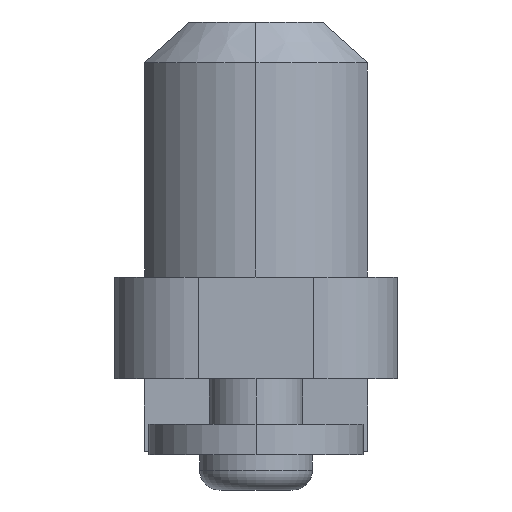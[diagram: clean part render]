
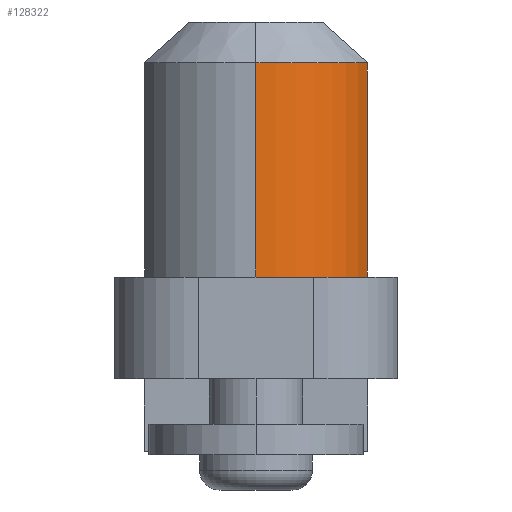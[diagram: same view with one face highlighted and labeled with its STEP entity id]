
A CAD part, left-side view. The second image highlights one B-rep face of the part: STEP entity #128322.
In plain terms, the highlighted cylindrical face has radius 7.02 mm (diameter 14.04 mm), a partial arc.
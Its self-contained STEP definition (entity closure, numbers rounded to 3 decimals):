
#1366 = AXIS2_PLACEMENT_3D ( 'NONE', #101583, #46306, #79176 ) ;
#4897 = DIRECTION ( 'NONE',  ( 1., 0., 0. ) ) ;
#8218 = CARTESIAN_POINT ( 'NONE',  ( -22.88, -6.57, -1. ) ) ;
#8811 = CARTESIAN_POINT ( 'NONE',  ( -22.88, -6.57, -12.69 ) ) ;
#17164 = CARTESIAN_POINT ( 'NONE',  ( -20.42, 0.005, -12.69 ) ) ;
#17468 = VECTOR ( 'NONE', #134740, 1000. ) ;
#19517 = VERTEX_POINT ( 'NONE', #132880 ) ;
#21119 = DIRECTION ( 'NONE',  ( 0., 0., -1. ) ) ;
#21633 = EDGE_CURVE ( 'NONE', #107968, #89227, #124994, .T. ) ;
#28563 = DIRECTION ( 'NONE',  ( 0., 0., -1. ) ) ;
#29779 = ORIENTED_EDGE ( 'NONE', *, *, #49169, .T. ) ;
#38866 = CARTESIAN_POINT ( 'NONE',  ( -22.88, -6.57, 0. ) ) ;
#45014 = LINE ( 'NONE', #75148, #52687 ) ;
#46306 = DIRECTION ( 'NONE',  ( 0., 0., -1. ) ) ;
#49169 = EDGE_CURVE ( 'NONE', #104097, #19517, #56592, .T. ) ;
#51559 = VERTEX_POINT ( 'NONE', #87367 ) ;
#52687 = VECTOR ( 'NONE', #65337, 1000. ) ;
#56592 = CIRCLE ( 'NONE', #136974, 7.02 ) ;
#56682 = EDGE_LOOP ( 'NONE', ( #29779, #109836, #69659, #65313, #123055 ) ) ;
#65313 = ORIENTED_EDGE ( 'NONE', *, *, #21633, .T. ) ;
#65337 = DIRECTION ( 'NONE',  ( 0., 0., 1. ) ) ;
#66562 = DIRECTION ( 'NONE',  ( 0., 0., -1. ) ) ;
#69659 = ORIENTED_EDGE ( 'NONE', *, *, #101364, .F. ) ;
#70702 = AXIS2_PLACEMENT_3D ( 'NONE', #17164, #21119, #138017 ) ;
#75148 = CARTESIAN_POINT ( 'NONE',  ( -22.88, -6.57, -12.69 ) ) ;
#79176 = DIRECTION ( 'NONE',  ( -1., 0., 0. ) ) ;
#81535 = CIRCLE ( 'NONE', #70702, 7.02 ) ;
#81740 = LINE ( 'NONE', #104855, #136160 ) ;
#87367 = CARTESIAN_POINT ( 'NONE',  ( -27.44, 0.005, -12.69 ) ) ;
#89227 = VERTEX_POINT ( 'NONE', #8218 ) ;
#89360 = EDGE_CURVE ( 'NONE', #19517, #51559, #81740, .T. ) ;
#101364 = EDGE_CURVE ( 'NONE', #107968, #51559, #81535, .T. ) ;
#101583 = CARTESIAN_POINT ( 'NONE',  ( -20.42, 0.005, 2.4 ) ) ;
#102612 = CARTESIAN_POINT ( 'NONE',  ( -22.88, -6.57, -12.69 ) ) ;
#104097 = VERTEX_POINT ( 'NONE', #38866 ) ;
#104855 = CARTESIAN_POINT ( 'NONE',  ( -27.44, 0.005, 2.4 ) ) ;
#107968 = VERTEX_POINT ( 'NONE', #8811 ) ;
#109836 = ORIENTED_EDGE ( 'NONE', *, *, #89360, .T. ) ;
#111093 = EDGE_CURVE ( 'NONE', #89227, #104097, #45014, .T. ) ;
#119785 = CARTESIAN_POINT ( 'NONE',  ( -20.42, 0.005, 0. ) ) ;
#123055 = ORIENTED_EDGE ( 'NONE', *, *, #111093, .T. ) ;
#124994 = LINE ( 'NONE', #102612, #17468 ) ;
#128322 = ADVANCED_FACE ( 'NONE', ( #134412 ), #132362, .T. ) ;
#132362 = CYLINDRICAL_SURFACE ( 'NONE', #1366, 7.02 ) ;
#132880 = CARTESIAN_POINT ( 'NONE',  ( -27.44, 0.005, 0. ) ) ;
#134412 = FACE_OUTER_BOUND ( 'NONE', #56682, .T. ) ;
#134740 = DIRECTION ( 'NONE',  ( 0., 0., 1. ) ) ;
#136160 = VECTOR ( 'NONE', #28563, 1000. ) ;
#136974 = AXIS2_PLACEMENT_3D ( 'NONE', #119785, #66562, #4897 ) ;
#138017 = DIRECTION ( 'NONE',  ( 1., 0., 0. ) ) ;
